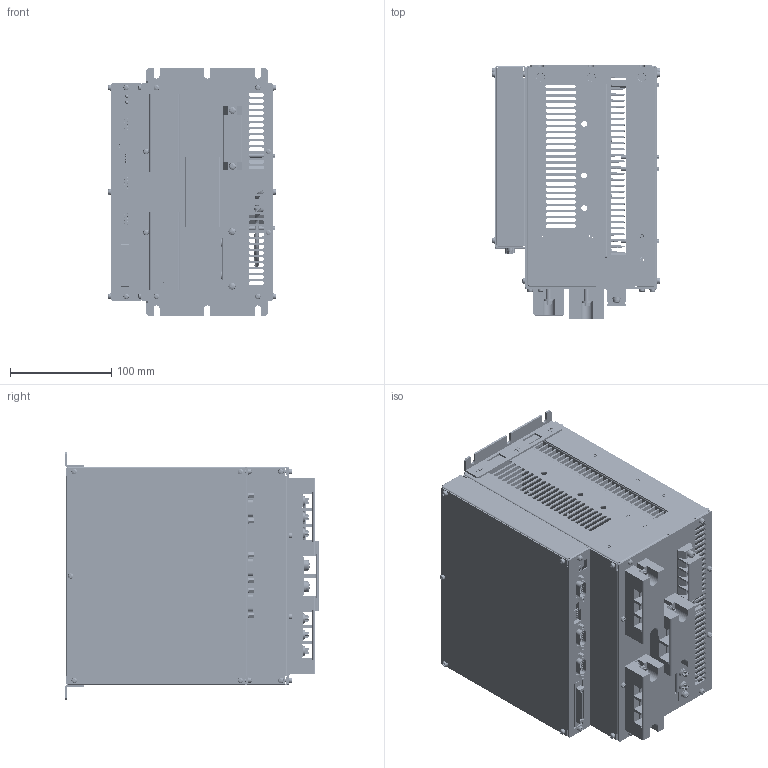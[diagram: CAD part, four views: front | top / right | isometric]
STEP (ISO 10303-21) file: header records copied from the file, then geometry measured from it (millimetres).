
FILE_DESCRIPTION(('HOOPS Exchange Step'),'2;1');
FILE_NAME('/tmp/b008ca0496028952ae42189599a556c720210922-1-tnna21.X_T.step','2021-09-22T00:33:17+00:00',('root'),('Unknown organisation'),'HOOPS Exchange 2021.0','HOOPS Exchange','Unknown authorisation');
FILE_SCHEMA( ('AUTOMOTIVE_DESIGN { 1 0 10303 214 1 1 1 1 }') );
Length unit declared in the file: millimetre
Products named in the file (1): b008ca0496028952ae42189599a556c720210922-1-tnna21
Bounding box: 166.33 x 250.5 x 245 mm (x, y, z)
Volume: 1362995.8 mm3; surface area: 1386923.6 mm2
Topology: 643 solids, 1362 shells, 8760 faces, 27097 edges, 20373 vertices
Faces by surface type: plane 6058, cylinder 2505, bspline 144, sphere 37, torus 10, cone 6
Full cylindrical faces by diameter (mm): 0.5 x54, 0.8 x53, 1 x27, 1.2 x27, 1.7 x2, 2.2 x52, 2.5 x2, 2.8 x12, 3 x143, 3.1 x8, 3.5 x32, 3.8 x4, 4 x124, 4.3 x26, 4.5 x24, 5 x40, 5.2 x2, 5.5 x94, 6 x47, 7 x57, 8 x44, 8.3 x8, 9 x43, 10 x27, 10.5 x4, 11.5 x8, 33 x2, 76 x2
Entity records: 345462 total; most frequent: CARTESIAN_POINT 100729, ORIENTED_EDGE 49095, DIRECTION 46757, EDGE_CURVE 26990, VERTEX_POINT 20277, VECTOR 16265, LINE 16265, AXIS2_PLACEMENT_3D 15246
